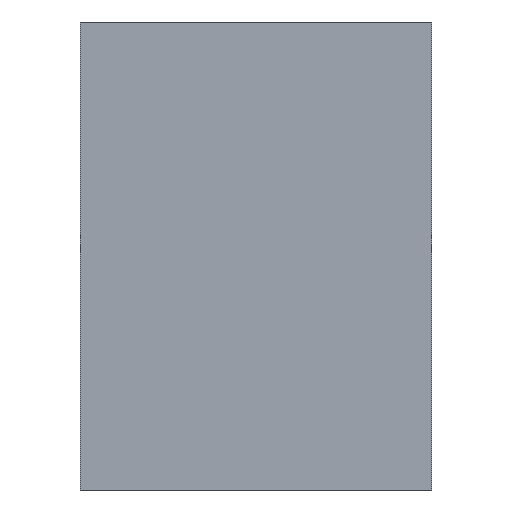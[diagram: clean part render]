
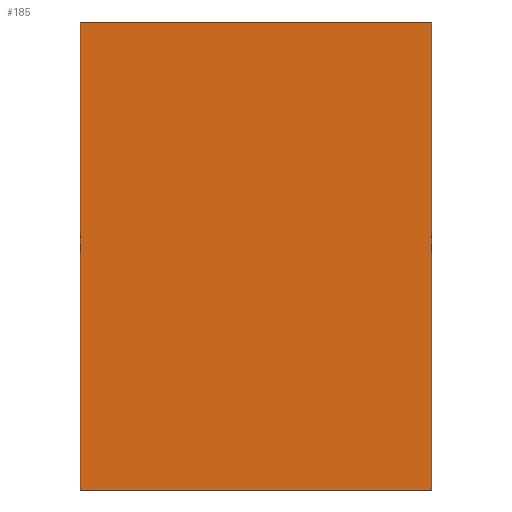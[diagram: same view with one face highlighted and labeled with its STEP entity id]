
A CAD part, left-side view. The second image highlights one B-rep face of the part: STEP entity #185.
In plain terms, the highlighted planar face has unit normal (-1, 0, 0).
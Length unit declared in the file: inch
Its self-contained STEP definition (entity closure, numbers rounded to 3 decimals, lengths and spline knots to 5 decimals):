
#3 = DIRECTION ( 'NONE',  ( 0., 0., 1. ) ) ;
#5 = CARTESIAN_POINT ( 'NONE',  ( -27.55906, -8.85827, 0. ) ) ;
#12 = VERTEX_POINT ( 'NONE', #184 ) ;
#19 = DIRECTION ( 'NONE',  ( 0., 0., 1. ) ) ;
#28 = AXIS2_PLACEMENT_3D ( 'NONE', #228, #157, #3 ) ;
#30 = EDGE_LOOP ( 'NONE', ( #217, #159, #165, #38 ) ) ;
#36 = LINE ( 'NONE', #137, #101 ) ;
#38 = ORIENTED_EDGE ( 'NONE', *, *, #46, .T. ) ;
#46 = EDGE_CURVE ( 'NONE', #114, #234, #231, .T. ) ;
#68 = VECTOR ( 'NONE', #69, 39.37008 ) ;
#69 = DIRECTION ( 'NONE',  ( 0., 0., 1. ) ) ;
#74 = CARTESIAN_POINT ( 'NONE',  ( -27.55906, -8.85827, -23.62205 ) ) ;
#88 = PLANE ( 'NONE',  #28 ) ;
#101 = VECTOR ( 'NONE', #19, 39.37008 ) ;
#102 = DIRECTION ( 'NONE',  ( 0., -1., 0. ) ) ;
#105 = EDGE_CURVE ( 'NONE', #132, #114, #135, .T. ) ;
#114 = VERTEX_POINT ( 'NONE', #136 ) ;
#132 = VERTEX_POINT ( 'NONE', #168 ) ;
#135 = LINE ( 'NONE', #186, #200 ) ;
#136 = CARTESIAN_POINT ( 'NONE',  ( -27.55906, -8.85827, -23.62205 ) ) ;
#137 = CARTESIAN_POINT ( 'NONE',  ( -27.55906, 8.85827, -23.62205 ) ) ;
#142 = VECTOR ( 'NONE', #173, 39.37008 ) ;
#153 = EDGE_CURVE ( 'NONE', #132, #12, #36, .T. ) ;
#157 = DIRECTION ( 'NONE',  ( -1., 0., 0. ) ) ;
#159 = ORIENTED_EDGE ( 'NONE', *, *, #153, .F. ) ;
#165 = ORIENTED_EDGE ( 'NONE', *, *, #105, .T. ) ;
#168 = CARTESIAN_POINT ( 'NONE',  ( -27.55906, 8.85827, -23.62205 ) ) ;
#173 = DIRECTION ( 'NONE',  ( 0., -1., 0. ) ) ;
#175 = FACE_OUTER_BOUND ( 'NONE', #30, .T. ) ;
#178 = EDGE_CURVE ( 'NONE', #12, #234, #222, .T. ) ;
#184 = CARTESIAN_POINT ( 'NONE',  ( -27.55906, 8.85827, 0. ) ) ;
#185 = ADVANCED_FACE ( 'NONE', ( #175 ), #88, .T. ) ;
#186 = CARTESIAN_POINT ( 'NONE',  ( -27.55906, -8.85827, -23.62205 ) ) ;
#200 = VECTOR ( 'NONE', #102, 39.37008 ) ;
#209 = CARTESIAN_POINT ( 'NONE',  ( -27.55906, -8.85827, 0. ) ) ;
#217 = ORIENTED_EDGE ( 'NONE', *, *, #178, .F. ) ;
#222 = LINE ( 'NONE', #5, #142 ) ;
#228 = CARTESIAN_POINT ( 'NONE',  ( -27.55906, -8.85827, -23.62205 ) ) ;
#231 = LINE ( 'NONE', #74, #68 ) ;
#234 = VERTEX_POINT ( 'NONE', #209 ) ;
